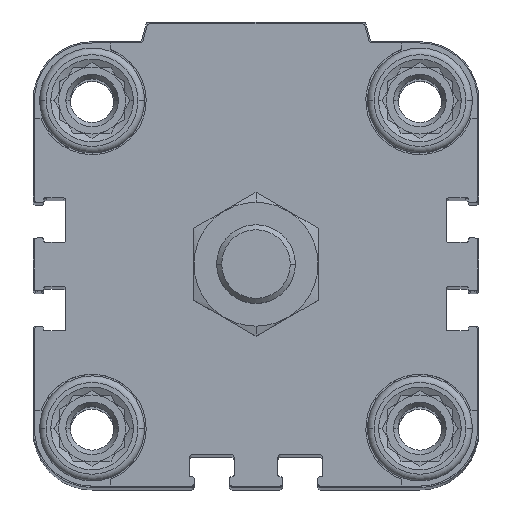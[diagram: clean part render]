
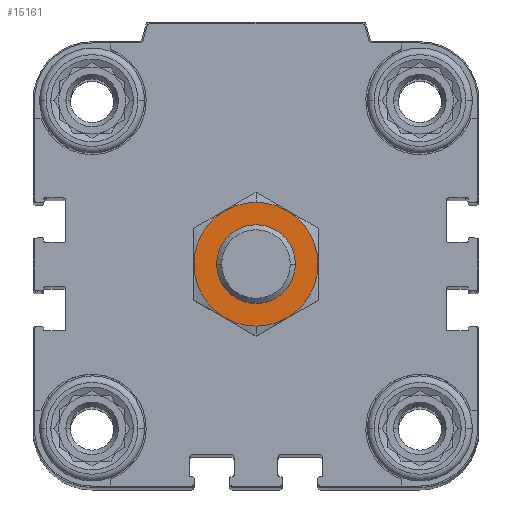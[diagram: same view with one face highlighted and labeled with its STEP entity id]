
A CAD part, top view. The second image highlights one B-rep face of the part: STEP entity #15161.
In plain terms, the highlighted planar face has unit normal (0, 0, 1).
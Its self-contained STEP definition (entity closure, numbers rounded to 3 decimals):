
#220 = CARTESIAN_POINT ( 'NONE',  ( 0., 9.45, 18.5 ) ) ;
#355 = DIRECTION ( 'NONE',  ( 0., 0., -1. ) ) ;
#742 = CIRCLE ( 'NONE', #7430, 6. ) ;
#1161 = DIRECTION ( 'NONE',  ( 0., 0., -1. ) ) ;
#1747 = ORIENTED_EDGE ( 'NONE', *, *, #16172, .T. ) ;
#2083 = DIRECTION ( 'NONE',  ( 0., -1., 0. ) ) ;
#4290 = EDGE_CURVE ( 'NONE', #16188, #6315, #17610, .T. ) ;
#4389 = ORIENTED_EDGE ( 'NONE', *, *, #4290, .F. ) ;
#4405 = CARTESIAN_POINT ( 'NONE',  ( 0., 0., 18.5 ) ) ;
#4660 = VERTEX_POINT ( 'NONE', #7453 ) ;
#4940 = ORIENTED_EDGE ( 'NONE', *, *, #19913, .T. ) ;
#5315 = EDGE_LOOP ( 'NONE', ( #4940, #1747 ) ) ;
#5406 = AXIS2_PLACEMENT_3D ( 'NONE', #17473, #10245, #13693 ) ;
#6315 = VERTEX_POINT ( 'NONE', #20535 ) ;
#6978 = CARTESIAN_POINT ( 'NONE',  ( 0., 0., 18.5 ) ) ;
#7430 = AXIS2_PLACEMENT_3D ( 'NONE', #6978, #20105, #16790 ) ;
#7453 = CARTESIAN_POINT ( 'NONE',  ( 0., 6., 18.5 ) ) ;
#7481 = CARTESIAN_POINT ( 'NONE',  ( 0., 0., 18.5 ) ) ;
#8392 = CARTESIAN_POINT ( 'NONE',  ( 0., 0., 18.5 ) ) ;
#8518 = CIRCLE ( 'NONE', #5406, 6. ) ;
#9508 = VERTEX_POINT ( 'NONE', #11041 ) ;
#9682 = ORIENTED_EDGE ( 'NONE', *, *, #12436, .F. ) ;
#9795 = AXIS2_PLACEMENT_3D ( 'NONE', #8392, #1161, #10241 ) ;
#10107 = CIRCLE ( 'NONE', #13258, 9.45 ) ;
#10115 = FACE_BOUND ( 'NONE', #5315, .T. ) ;
#10241 = DIRECTION ( 'NONE',  ( 0., -1., 0. ) ) ;
#10245 = DIRECTION ( 'NONE',  ( 0., 0., -1. ) ) ;
#11041 = CARTESIAN_POINT ( 'NONE',  ( 0., -6., 18.5 ) ) ;
#12436 = EDGE_CURVE ( 'NONE', #6315, #16188, #10107, .T. ) ;
#13116 = DIRECTION ( 'NONE',  ( 0., 0., -1. ) ) ;
#13258 = AXIS2_PLACEMENT_3D ( 'NONE', #4405, #355, #2083 ) ;
#13693 = DIRECTION ( 'NONE',  ( 0., -1., 0. ) ) ;
#14955 = DIRECTION ( 'NONE',  ( 0., -1., 0. ) ) ;
#15161 = ADVANCED_FACE ( 'NONE', ( #21613, #10115 ), #15758, .F. ) ;
#15758 = PLANE ( 'NONE',  #9795 ) ;
#16172 = EDGE_CURVE ( 'NONE', #9508, #4660, #742, .T. ) ;
#16188 = VERTEX_POINT ( 'NONE', #220 ) ;
#16790 = DIRECTION ( 'NONE',  ( 0., -1., 0. ) ) ;
#17473 = CARTESIAN_POINT ( 'NONE',  ( 0., 0., 18.5 ) ) ;
#17610 = CIRCLE ( 'NONE', #20739, 9.45 ) ;
#19130 = EDGE_LOOP ( 'NONE', ( #9682, #4389 ) ) ;
#19913 = EDGE_CURVE ( 'NONE', #4660, #9508, #8518, .T. ) ;
#20105 = DIRECTION ( 'NONE',  ( 0., 0., -1. ) ) ;
#20535 = CARTESIAN_POINT ( 'NONE',  ( 0., -9.45, 18.5 ) ) ;
#20739 = AXIS2_PLACEMENT_3D ( 'NONE', #7481, #13116, #14955 ) ;
#21613 = FACE_OUTER_BOUND ( 'NONE', #19130, .T. ) ;
